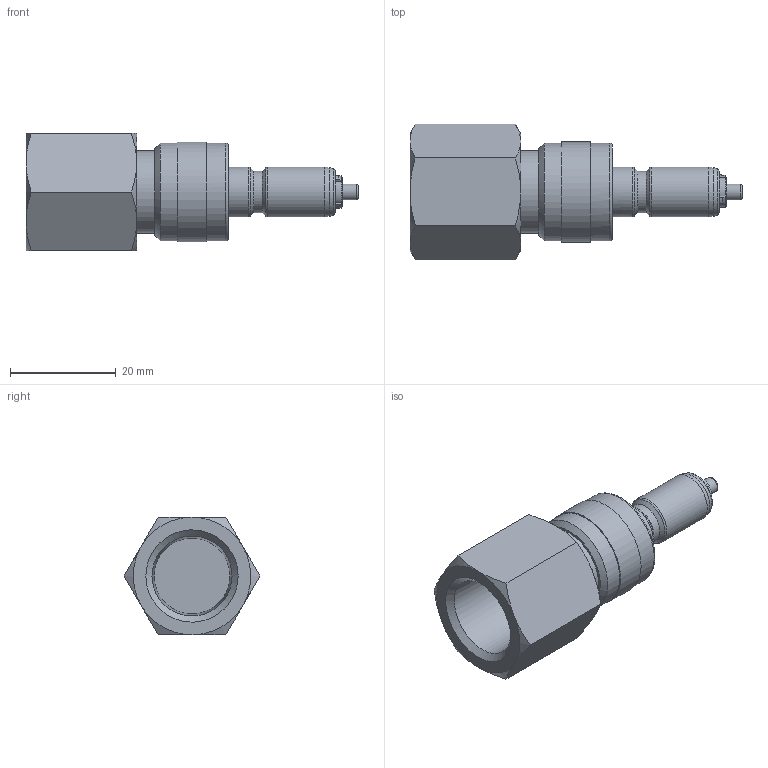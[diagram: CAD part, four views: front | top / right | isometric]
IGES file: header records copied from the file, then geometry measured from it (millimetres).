
Global section: file name: SQC2P-F6N-D0; native system: Autodesk Inventor 2016; preprocessor: unknown; author: 이승민,,11,0; organization: 20170208.014523; date: 20170209.081331; units: millimetre
Bounding box: 62.7 x 25.63 x 22.2 mm (x, y, z)
Volume: 11533.3 mm3; surface area: 5694.3 mm2
Topology: 1 solids, 1 shells, 96 faces, 266 edges, 186 vertices
Faces by surface type: bspline 96
